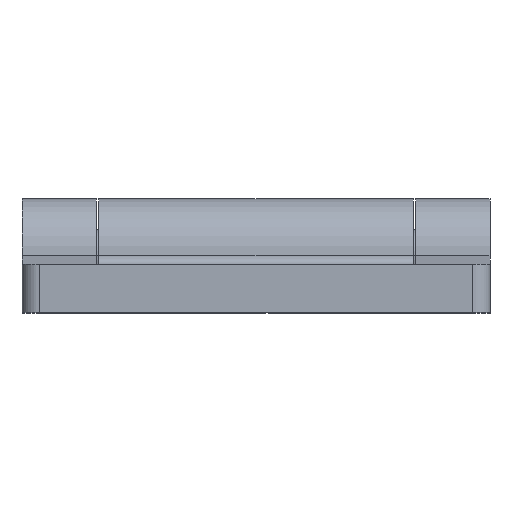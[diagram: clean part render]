
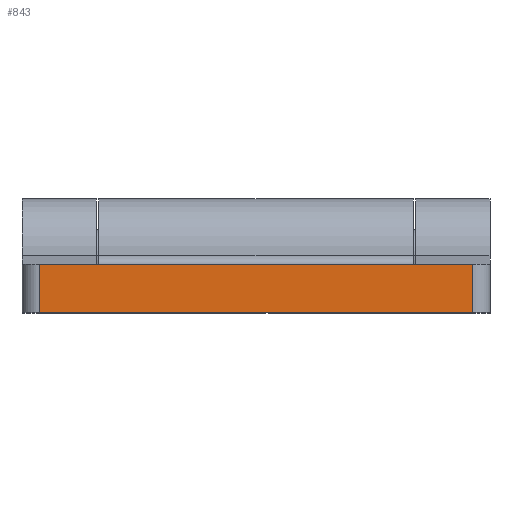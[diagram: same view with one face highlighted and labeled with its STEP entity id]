
A CAD part, top view. The second image highlights one B-rep face of the part: STEP entity #843.
In plain terms, the highlighted planar face has unit normal (0, 0, 1).
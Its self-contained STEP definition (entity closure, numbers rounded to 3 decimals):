
#49 = CARTESIAN_POINT ( 'NONE',  ( 26.75, -6.5, 27. ) ) ;
#137 = CARTESIAN_POINT ( 'NONE',  ( 24.75, -6.5, 27. ) ) ;
#295 = CARTESIAN_POINT ( 'NONE',  ( -24.75, -6.5, 27. ) ) ;
#375 = CARTESIAN_POINT ( 'NONE',  ( 26.75, -6.5, 27. ) ) ;
#423 = VERTEX_POINT ( 'NONE', #295 ) ;
#523 = CARTESIAN_POINT ( 'NONE',  ( 24.75, -1., 27. ) ) ;
#661 = DIRECTION ( 'NONE',  ( -1., 0., 0. ) ) ;
#811 = VERTEX_POINT ( 'NONE', #4482 ) ;
#843 = ADVANCED_FACE ( 'NONE', ( #2756 ), #1712, .F. ) ;
#1020 = LINE ( 'NONE', #49, #4244 ) ;
#1080 = ORIENTED_EDGE ( 'NONE', *, *, #4037, .T. ) ;
#1545 = ORIENTED_EDGE ( 'NONE', *, *, #3025, .F. ) ;
#1660 = VERTEX_POINT ( 'NONE', #137 ) ;
#1712 = PLANE ( 'NONE',  #3719 ) ;
#1795 = DIRECTION ( 'NONE',  ( -1., 0., 0. ) ) ;
#1888 = ORIENTED_EDGE ( 'NONE', *, *, #3923, .T. ) ;
#1939 = DIRECTION ( 'NONE',  ( 0., 1., 0. ) ) ;
#2176 = CARTESIAN_POINT ( 'NONE',  ( -24.75, -1., 27. ) ) ;
#2249 = DIRECTION ( 'NONE',  ( -1., 0., 0. ) ) ;
#2284 = LINE ( 'NONE', #3700, #2589 ) ;
#2496 = LINE ( 'NONE', #4296, #2840 ) ;
#2589 = VECTOR ( 'NONE', #4433, 1000. ) ;
#2697 = VERTEX_POINT ( 'NONE', #2176 ) ;
#2756 = FACE_OUTER_BOUND ( 'NONE', #4156, .T. ) ;
#2760 = EDGE_CURVE ( 'NONE', #811, #2697, #2496, .T. ) ;
#2840 = VECTOR ( 'NONE', #2249, 1000. ) ;
#3025 = EDGE_CURVE ( 'NONE', #1660, #423, #1020, .T. ) ;
#3102 = VECTOR ( 'NONE', #1939, 1000. ) ;
#3310 = LINE ( 'NONE', #523, #3102 ) ;
#3700 = CARTESIAN_POINT ( 'NONE',  ( -24.75, -6.5, 27. ) ) ;
#3719 = AXIS2_PLACEMENT_3D ( 'NONE', #375, #3858, #661 ) ;
#3858 = DIRECTION ( 'NONE',  ( 0., 0., -1. ) ) ;
#3923 = EDGE_CURVE ( 'NONE', #2697, #423, #2284, .T. ) ;
#4037 = EDGE_CURVE ( 'NONE', #1660, #811, #3310, .T. ) ;
#4156 = EDGE_LOOP ( 'NONE', ( #4391, #1888, #1545, #1080 ) ) ;
#4244 = VECTOR ( 'NONE', #1795, 1000. ) ;
#4296 = CARTESIAN_POINT ( 'NONE',  ( 26.75, -1., 27. ) ) ;
#4391 = ORIENTED_EDGE ( 'NONE', *, *, #2760, .T. ) ;
#4433 = DIRECTION ( 'NONE',  ( 0., -1., 0. ) ) ;
#4482 = CARTESIAN_POINT ( 'NONE',  ( 24.75, -1., 27. ) ) ;
